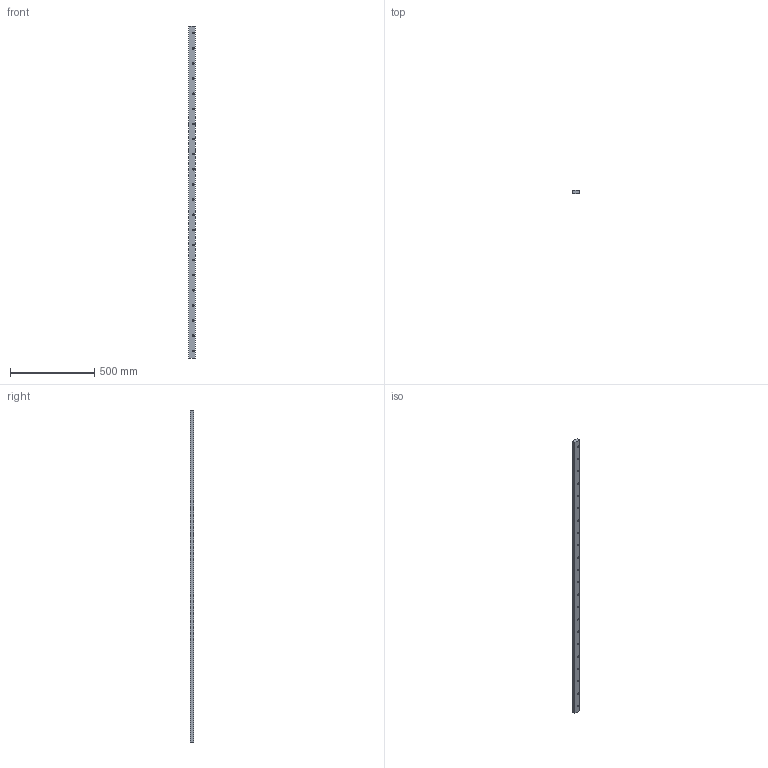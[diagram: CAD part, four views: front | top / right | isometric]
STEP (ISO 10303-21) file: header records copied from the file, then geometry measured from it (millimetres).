
FILE_DESCRIPTION(('STEP AP203'),'1');
FILE_NAME('track_ft4020l1976p2a.stp','2022-07-04T01:40:44',('TraceParts'),('TraceParts S.A.'),'Spatial InterOp 3D',' ',' ');
FILE_SCHEMA(('CONFIG_CONTROL_DESIGN'));
Length unit declared in the file: millimetre
Products named in the file (1): 1
Bounding box: 40.4 x 20 x 1976 mm (x, y, z)
Volume: 1547288.6 mm3; surface area: 250496.4 mm2
Topology: 1 solids, 1 shells, 120 faces, 288 edges, 192 vertices
Faces by surface type: cylinder 88, plane 32
Entity records: 3720 total; most frequent: DIRECTION 706, CARTESIAN_POINT 601, ORIENTED_EDGE 576, AXIS2_PLACEMENT_3D 297, EDGE_CURVE 288, VERTEX_POINT 192, EDGE_LOOP 186, CIRCLE 176
